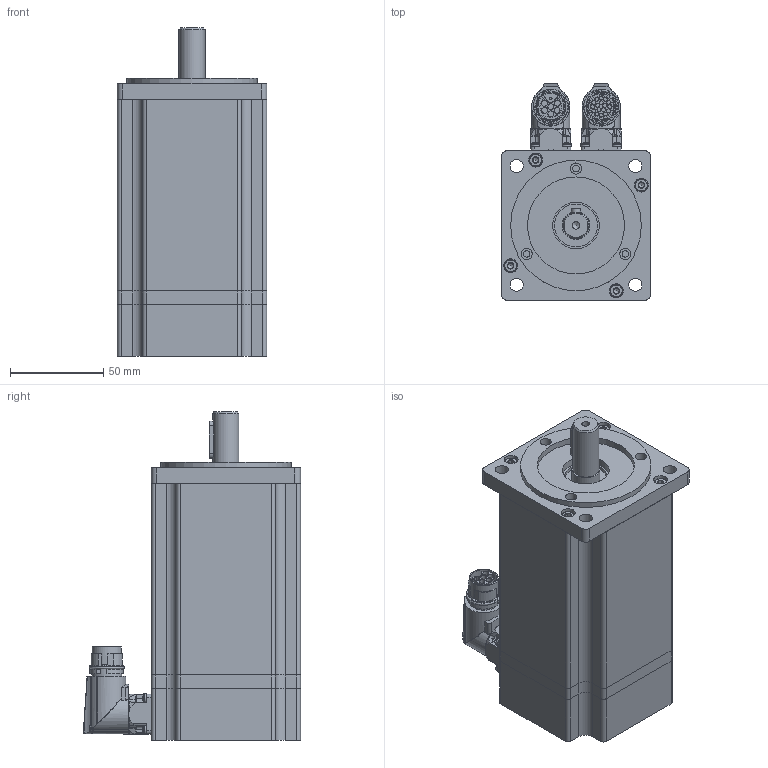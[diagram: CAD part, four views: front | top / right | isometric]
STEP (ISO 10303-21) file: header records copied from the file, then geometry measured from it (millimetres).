
FILE_DESCRIPTION(/* description */ (''),/* implementation_level */ '2;1');
FILE_NAME(/* name */ 'C:\Users\Public\Documents\Autodesk\Inventor LT 2014\Workspace\3D Sangalli Servomotori\DSM7\DSM7 - STEP\DSM7_3x_STEP\DSM7_31_x198.stp',/* time_stamp */ '2020-10-16T12:22:50+02:00',/* author */ ('marcor'),/* organization */ (''),/* preprocessor_version */ 'ST-DEVELOPER v15.2',/* originating_system */ 'Autodesk Inventor LT ',/* authorisation */ '');
FILE_SCHEMA (('AUTOMOTIVE_DESIGN { 1 0 10303 214 3 1 1 }'));
Products named in the file (1): DSM7_31_x198
Bounding box: 80 x 116.35 x 176.1 mm (x, y, z)
Volume: 874966.5 mm3; surface area: 119279.4 mm2
Topology: 16 solids, 36 shells, 1536 faces, 3989 edges, 2600 vertices
Faces by surface type: plane 676, cylinder 540, cone 164, torus 96, bspline 52, sphere 8
Full cylindrical faces by diameter (mm): 1.3 x1, 2.013 x4, 2.1 x15, 2.224 x8, 2.5 x8, 2.7 x8, 3.2 x6, 3.242 x12, 3.5 x3, 4 x12, 4.134 x1, 4.5 x12, 4.8 x2, 5 x2, 6 x3, 7 x20, 7.5 x8, 11.7 x1, 13.4 x1, 14 x1, 14.2 x2, 14.95 x1, 15.2 x2, 15.54 x2, 16 x2, 16.8 x2, 17 x2, 19.7 x2, 23 x1, 25 x1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
Entity records: 50391 total; most frequent: CARTESIAN_POINT 13747, ORIENTED_EDGE 7190, DIRECTION 7098, EDGE_CURVE 3595, AXIS2_PLACEMENT_3D 2786, VERTEX_POINT 2493, EDGE_LOOP 1966, ADVANCED_FACE 1530
